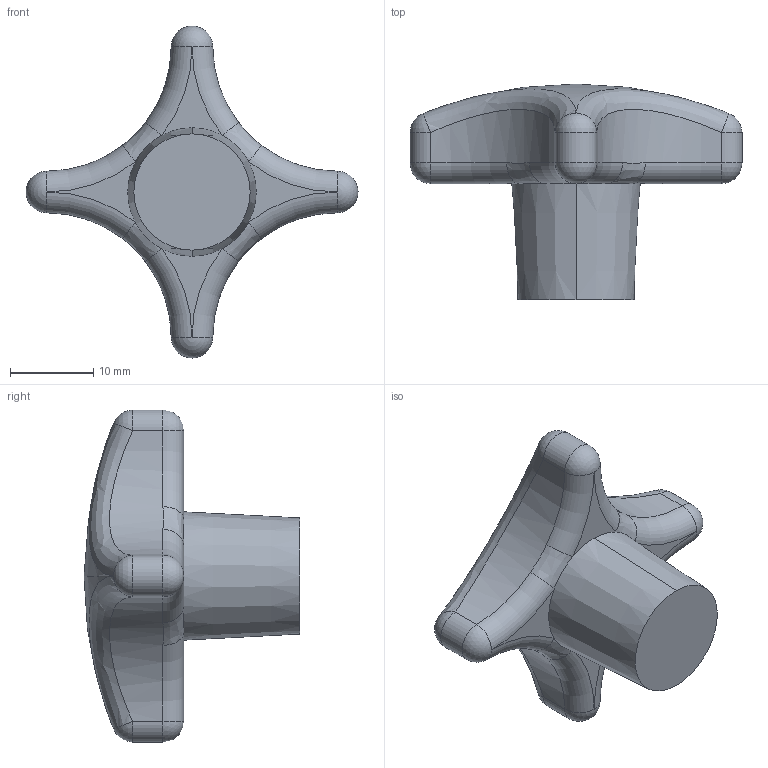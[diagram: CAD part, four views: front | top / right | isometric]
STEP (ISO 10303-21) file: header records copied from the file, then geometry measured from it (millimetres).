
FILE_DESCRIPTION (( 'STEP AP203' ), '1' );
FILE_NAME ('7000.W040.step', '2010-01-29T17:34:01', ( 'Wixroyd' ), ( 'Wixroyd' ), 'SwSTEP 2.0', 'SolidWorks 2009', '' );
FILE_SCHEMA (( 'CONFIG_CONTROL_DESIGN' ));
Length unit declared in the file: millimetre
Products named in the file (1): 7000.W040
Bounding box: 40 x 26 x 40 mm (x, y, z)
Volume: 8111.3 mm3; surface area: 2730.2 mm2
Topology: 1 solids, 1 shells, 42 faces, 91 edges, 47 vertices
Faces by surface type: sphere 10, cylinder 9, torus 8, bspline 8, plane 5, cone 2
Entity records: 4292 total; most frequent: CARTESIAN_POINT 3329, DIRECTION 209, ORIENTED_EDGE 174, AXIS2_PLACEMENT_3D 99, EDGE_CURVE 87, CIRCLE 64, VERTEX_POINT 47, EDGE_LOOP 42
